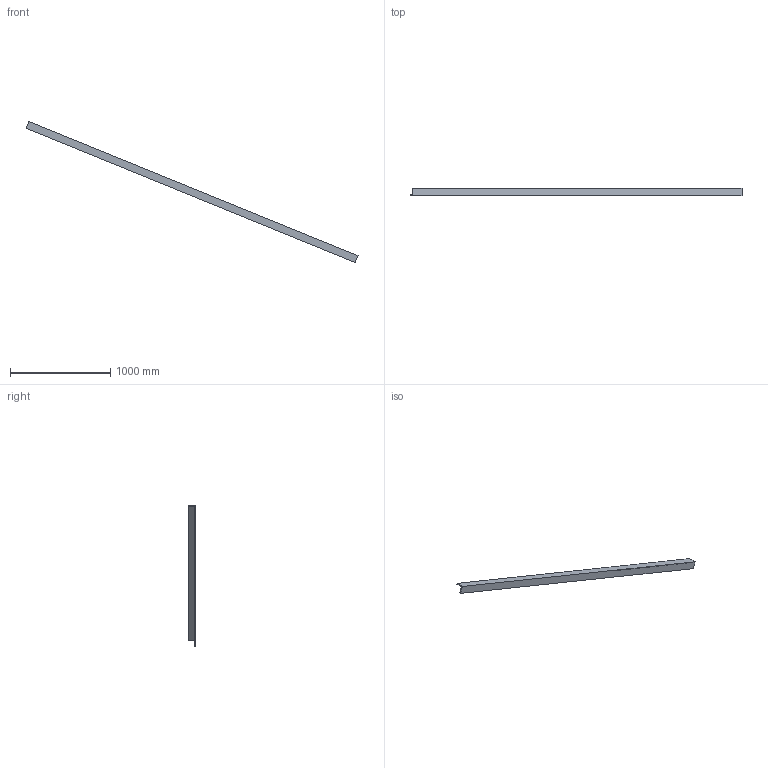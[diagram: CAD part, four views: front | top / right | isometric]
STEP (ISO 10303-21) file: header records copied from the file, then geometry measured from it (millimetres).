
FILE_DESCRIPTION(('Open CASCADE Model'),'2;1');
FILE_NAME('Open CASCADE Shape Model','2026-09-19T12:55:21',('Author'),( 'Open CASCADE'),'Open CASCADE STEP processor 7.9','Open CASCADE 7.9' ,'Unknown');
FILE_SCHEMA(('AUTOMOTIVE_DESIGN { 1 0 10303 214 1 1 1 1 }'));
Length unit declared in the file: millimetre
Products named in the file (1): Open CASCADE STEP translator 7.9 361
Bounding box: 3312.79 x 76.2 x 1410.55 mm (x, y, z)
Volume: 4826874.1 mm3; surface area: 1083806.4 mm2
Topology: 1 solids, 1 shells, 8 faces, 18 edges, 12 vertices
Faces by surface type: plane 8
Entity records: 466 total; most frequent: CARTESIAN_POINT 75, DIRECTION 72, LINE 54, VECTOR 54, ORIENTED_EDGE 36, PCURVE 36, DEFINITIONAL_REPRESENTATION 36, EDGE_CURVE 18
